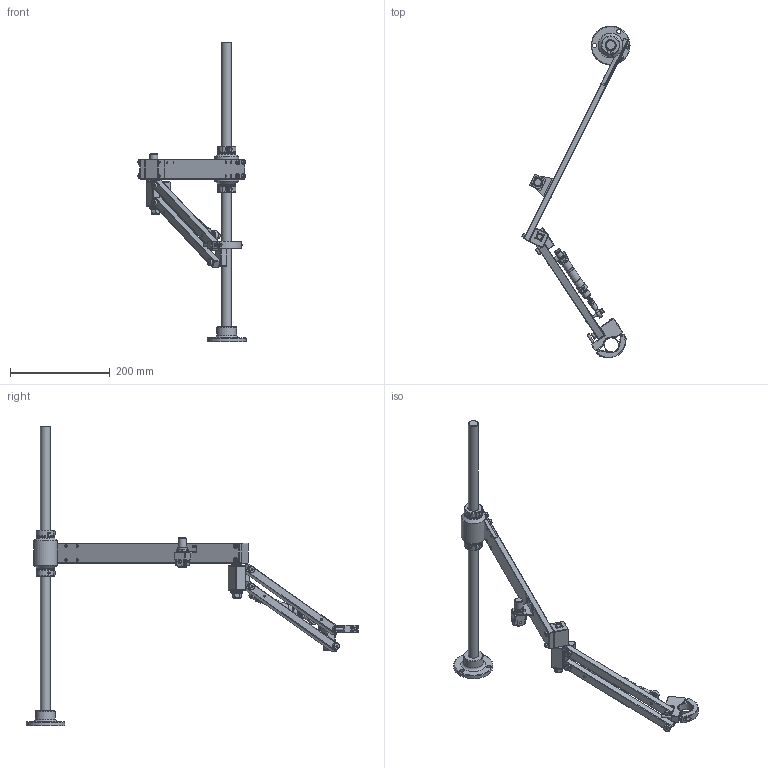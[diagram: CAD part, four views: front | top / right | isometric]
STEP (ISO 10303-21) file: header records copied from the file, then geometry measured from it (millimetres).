
FILE_DESCRIPTION( ( 'Unknown' ), '1' );
FILE_NAME( 'D:/dogabe/Industrie/Assemblage 2015/15-14-4072 BA 10 RP/4-1201014_bras BA10G_600_3D/4-1201014_bras BA10G_600.stp', 'Unknown', ( 'Unknown' ), ( 'Unknown' ), 'PSStep 14.0', 'Unknown', ' ' );
FILE_SCHEMA( ( 'AUTOMOTIVE_DESIGN { 1 0 10303 214 1 1 1 1 }' ) );
Length unit declared in the file: millimetre
Products named in the file (47): Vérin DSNU-16-25-P-A - FESTO; Vérin DSNU-16-25-P-A - FESTO_02; Vérin DSNU-16-25-P-A - FESTO_01; 15-14-4072 Sous ens arrière bras BA 10 RP 600; CHC M5x16; CHC M5x20; CHC M5x20-oa0; CHC M5x20-oa1; CHC M5x20-oa2; CHC M5x25; CHC M5x25-oa3; Pivot 2; 15-14-4072 Axe Ø12X111,5; 15-14-4072 Plaque support 600; Roulement à aiguilles HK2020; Roulement à aiguilles HK2020-oa4; 15-14-4072 Fourreau; 15-14-4072 Bague butée Ø20; 15-14-4072 Bague butée Ø20-oa5; Rondelle AS2035; Butée à aiguilles AXK2035; 15-14-4072 Sous ens Pince BA 10 RP; Placement; CHC M5x45 fileté sous tête; CHC M5x45 fileté sous tête-oa8; Collier; 15-14-4072 Pince; 15-14-4072 Sous ens avant bras BA 10 RP; H M10 Nyl; 10 M; 12 Z; CHC Epaulé M6-20; 15-14-4072 Pivot 1; 15-14-4072 Carr\X2\00E\X0\; 15-14-4072 Carré-oa6; Butée à aiguilles AXK1024; Roulement à aiguilles HK1212; Roulement à aiguilles HK1212-oa7; Chape à rotule SGS-M6 - FESTO; CHC Epaulé M5-20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
Assembly tree (57 placements, depth 4):
  Assem1
    Régulateur AR10-M5B-A - SMC
    15-14-4072 Sous ens mat BA 10 RP
      15-14-4072 Mat Ø20X600
      Pied
      Vis M8x10 à bout plat
    15-14-4072 Sous ens arrière bras BA 10 RP 600
      CHC M5x16  x2
      CHC M5x20
      CHC M5x20-oa0
      CHC M5x20-oa1
      CHC M5x20-oa2
      CHC M5x25
      CHC M5x25-oa3
      Pivot 2
      15-14-4072 Axe Ø12X111,5
      15-14-4072 Plaque support 600
      Roulement à aiguilles HK2020
      Roulement à aiguilles HK2020-oa4
      15-14-4072 Fourreau
      15-14-4072 Bague butée Ø20
      15-14-4072 Bague butée Ø20-oa5
      Rondelle AS2035  x4
      Butée à aiguilles AXK2035  x2
    15-14-4072 Sous ens avant bras BA 10 RP
      H M10 Nyl
      10 M  x2
      12 Z  x2
      CHC Epaulé M6-20  x4
      15-14-4072 Pivot 1
      15-14-4072 Carr\X2\00E\X0\
      15-14-4072 Carré-oa6
      Butée à aiguilles AXK1024
      Roulement à aiguilles HK1212
      Roulement à aiguilles HK1212-oa7
      Chape à rotule SGS-M6 - FESTO
      CHC Epaulé M5-20  x2
      15-14-4072 Entretoise Ø10xØ6x8
      Vérin DSNU-16-25-P-A - FESTO
        Vérin DSNU-16-25-P-A - FESTO_02
        Vérin DSNU-16-25-P-A - FESTO_01
    15-14-4072 Sous ens Pince BA 10 RP
      Placement
      CHC M5x45 fileté sous tête
      CHC M5x45 fileté sous tête-oa8
      Collier
      15-14-4072 Pince
Bounding box: 216.92 x 665.83 x 600 mm (x, y, z)
Volume: 872977.8 mm3; surface area: 262250.2 mm2
Topology: 52 solids, 52 shells, 1452 faces, 3315 edges, 2049 vertices
Faces by surface type: plane 713, cylinder 614, cone 93, torus 29, sphere 3
Full cylindrical faces by diameter (mm): 2.459 x8, 3.242 x2, 4.134 x10, 4.2 x8, 4.8 x11, 4.917 x2, 4.918 x4, 5 x22, 5.5 x4, 6 x13, 6.561 x2, 6.8 x1, 8 x13, 8.5 x15, 9 x2, 10 x7, 10.504 x1, 12 x6, 13 x4, 13.7 x1, 14 x1, 15.475 x1, 16 x5, 17.3 x1, 18 x4, 19 x1, 20 x12, 22 x2, 24 x1, 26 x3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
Entity records: 42396 total; most frequent: CARTESIAN_POINT 8791, DIRECTION 5284, ORIENTED_EDGE 4764, EDGE_CURVE 2382, AXIS2_PLACEMENT_3D 2084, EDGE_LOOP 1606, VERTEX_POINT 1585, FACE_OUTER_BOUND 1363
